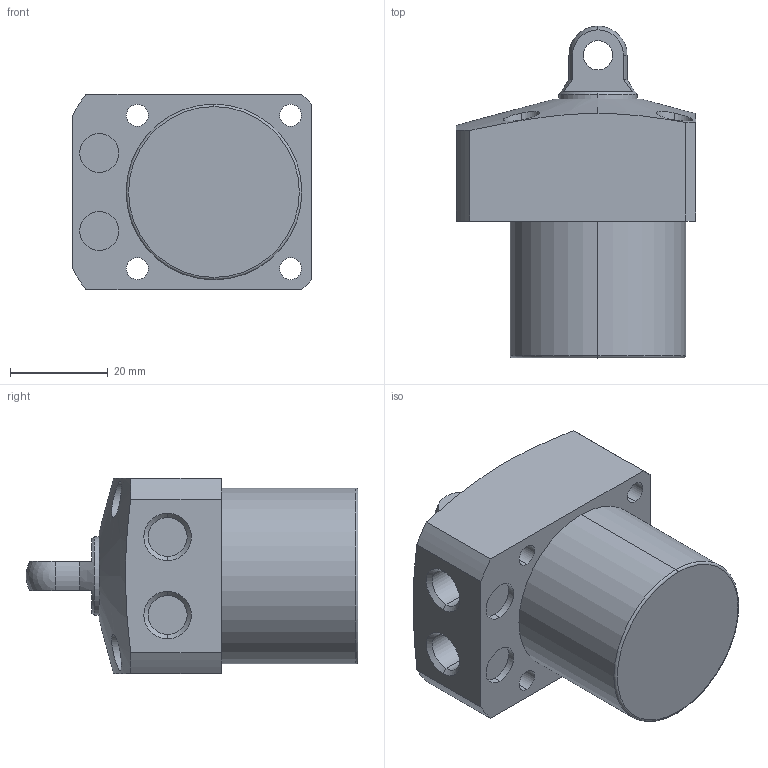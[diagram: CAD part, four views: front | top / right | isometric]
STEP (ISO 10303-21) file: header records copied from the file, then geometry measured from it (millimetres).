
FILE_DESCRIPTION (( 'STEP AP203' ), '1' );
FILE_NAME ('CLL-036CP-020.STEP', '2020-01-03T12:45:44', ( '' ), ( '' ), 'SwSTEP 2.0', 'SolidWorks 2015', '' );
FILE_SCHEMA (( 'CONFIG_CONTROL_DESIGN' ));
Length unit declared in the file: millimetre
Products named in the file (1): CLL-036CP-020
Bounding box: 49 x 68 x 40 mm (x, y, z)
Volume: 69889.2 mm3; surface area: 13214.5 mm2
Topology: 1 solids, 1 shells, 67 faces, 162 edges, 105 vertices
Faces by surface type: cylinder 34, plane 21, cone 8, sphere 2, torus 2
Entity records: 2347 total; most frequent: CARTESIAN_POINT 663, DIRECTION 354, ORIENTED_EDGE 316, EDGE_CURVE 158, AXIS2_PLACEMENT_3D 148, VERTEX_POINT 103, EDGE_LOOP 87, CIRCLE 80
